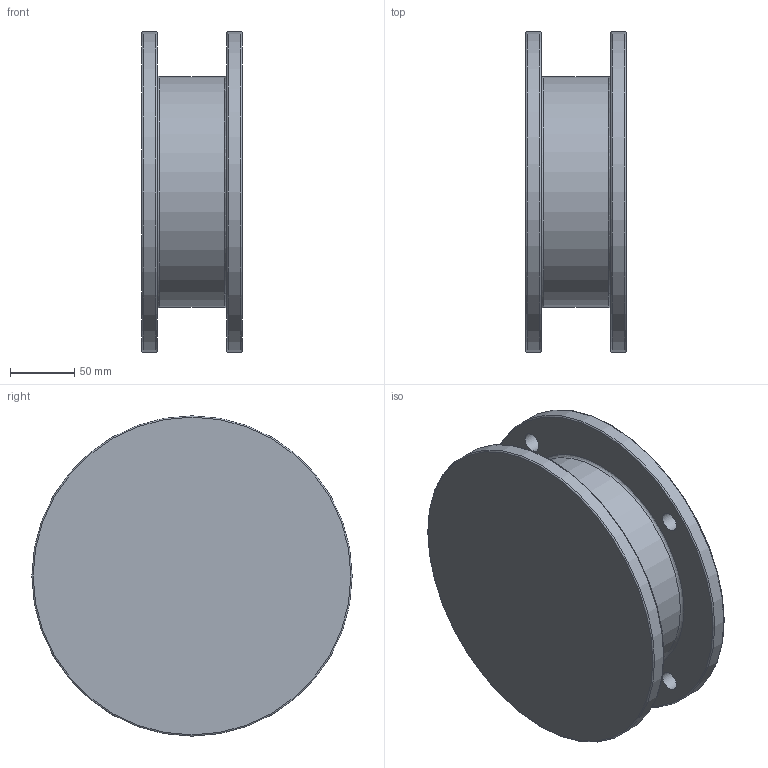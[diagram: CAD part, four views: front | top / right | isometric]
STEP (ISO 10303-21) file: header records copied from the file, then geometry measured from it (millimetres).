
FILE_DESCRIPTION((''),'2;1');
FILE_NAME('D:\PAWEŁ\ZLECENIA\DualSystem\001 Modele\DKAB80_\DK_80_STEP\100-112_B5_L78,5.stp','2011-11-26T09:48:20',('Pawe'),(''),'Autodesk Inventor 2009','Autodesk Inventor 2009','');
FILE_SCHEMA(('AUTOMOTIVE_DESIGN { 1 0 10303 214 1 1 1 1 }'));
Length unit declared in the file: millimetre
Products named in the file (1): 100-112_B5_L78,5
Bounding box: 78.5 x 250 x 250 mm (x, y, z)
Volume: 1146067.2 mm3; surface area: 243333.6 mm2
Topology: 1 solids, 1 shells, 29 faces, 56 edges, 35 vertices
Faces by surface type: plane 11, cylinder 7, bspline 6, torus 5
Full cylindrical faces by diameter (mm): 48 x1, 168 x1, 180 x2, 250 x2
Entity records: 857 total; most frequent: CARTESIAN_POINT 260, DIRECTION 116, ORIENTED_EDGE 78, EDGE_LOOP 60, AXIS2_PLACEMENT_3D 53, EDGE_CURVE 39, VERTEX_POINT 35, FACE_BOUND 31
